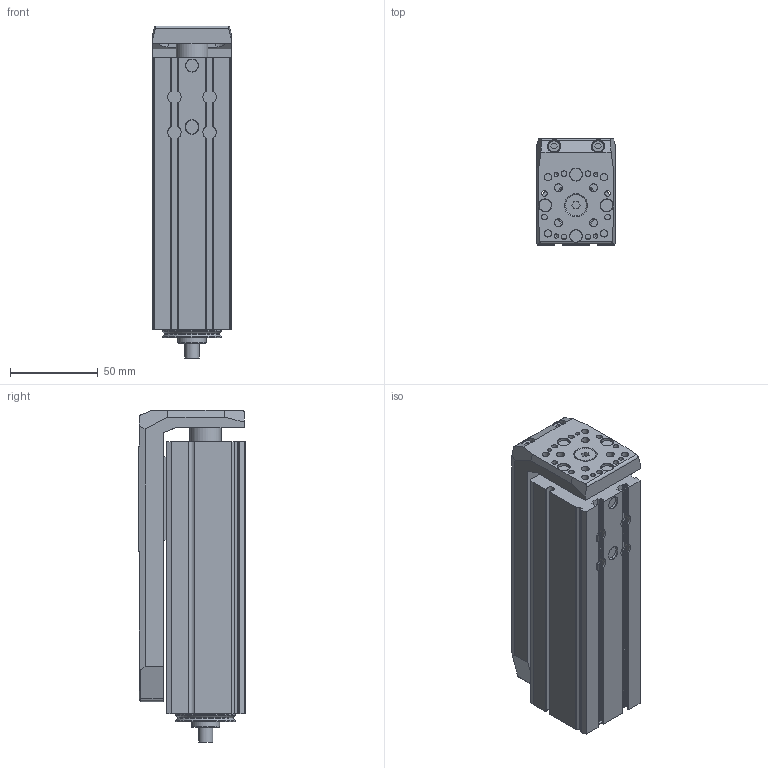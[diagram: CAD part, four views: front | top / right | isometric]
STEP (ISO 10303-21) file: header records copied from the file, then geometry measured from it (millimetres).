
FILE_DESCRIPTION(/* description */ ('STEP AP214'),/* implementation_level */ '2;1');
FILE_NAME(/* name */ 'MSCE 45 1003 75(0)',/* time_stamp */ '2023-10-09T11:28:00+02:00',/* author */ ('License CC BY-ND 4.0'),/* organization */ ('CADENAS'),/* preprocessor_version */ 'ST-DEVELOPER v19.3',/* originating_system */ 'PARTsolutions',/* authorisation */ ' ');
FILE_SCHEMA (('AUTOMOTIVE_DESIGN {1 0 10303 214 3 1 1}'));
Length unit declared in the file: millimetre
Products named in the file (3): MSCE 45 1003 75(0); 45(75)_prp; 45(75)_msce
Assembly tree (2 placements, depth 2):
  MSCE 45 1003 75(0)
    45(75)_prp
    45(75)_msce
Bounding box: 45 x 60.5 x 189 mm (x, y, z)
Volume: 358316.1 mm3; surface area: 100058.1 mm2
Topology: 2 solids, 2 shells, 436 faces, 1125 edges, 741 vertices
Faces by surface type: plane 208, cylinder 198, cone 23, torus 7
Full cylindrical faces by diameter (mm): 2.459 x8, 3.2 x8, 3.242 x8, 4 x2, 4.134 x4, 4.5 x4, 6 x8, 7 x7, 7.5 x4, 7.6 x2, 8 x1, 12 x1, 16 x1, 18 x2, 24 x1, 24.5 x1, 34 x2, 37.5 x2
Entity records: 14172 total; most frequent: CARTESIAN_POINT 2561, DIRECTION 2180, ORIENTED_EDGE 2034, EDGE_CURVE 1017, AXIS2_PLACEMENT_3D 825, VERTEX_POINT 729, FACE_BOUND 612, EDGE_LOOP 608
